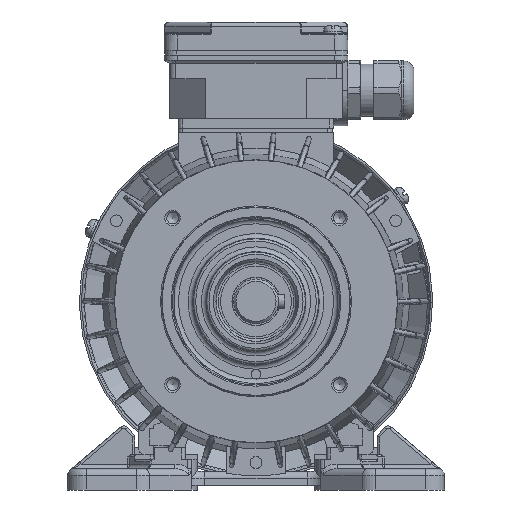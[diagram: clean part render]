
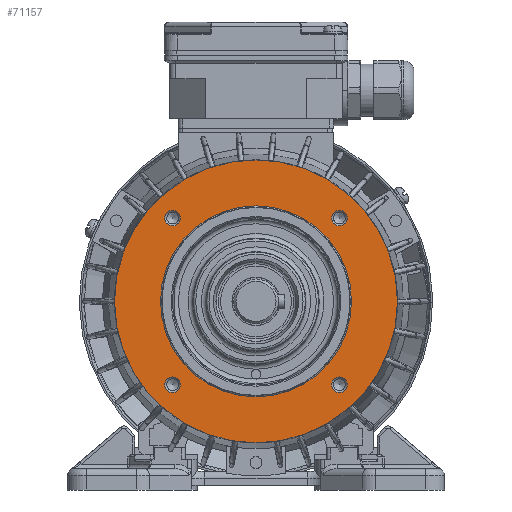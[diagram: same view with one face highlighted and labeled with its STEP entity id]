
A CAD part, left-side view. The second image highlights one B-rep face of the part: STEP entity #71157.
In plain terms, the highlighted planar face has unit normal (-1, 0, 0).
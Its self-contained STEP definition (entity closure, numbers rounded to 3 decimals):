
#20374=ORIENTED_EDGE('',*,*,#31230,.T.);
#20375=ORIENTED_EDGE('',*,*,#31231,.T.);
#20376=ORIENTED_EDGE('',*,*,#31232,.T.);
#20377=ORIENTED_EDGE('',*,*,#31233,.T.);
#20378=ORIENTED_EDGE('',*,*,#31234,.T.);
#20379=ORIENTED_EDGE('',*,*,#31043,.T.);
#31043=EDGE_CURVE('',#37262,#37262,#40697,.T.);
#31230=EDGE_CURVE('',#37378,#37378,#40741,.F.);
#31231=EDGE_CURVE('',#37379,#37379,#40742,.F.);
#31232=EDGE_CURVE('',#37380,#37380,#40743,.F.);
#31233=EDGE_CURVE('',#37381,#37381,#40744,.F.);
#31234=EDGE_CURVE('',#37382,#37382,#40745,.F.);
#37262=VERTEX_POINT('',#110181);
#37378=VERTEX_POINT('',#112184);
#37379=VERTEX_POINT('',#112186);
#37380=VERTEX_POINT('',#112188);
#37381=VERTEX_POINT('',#112190);
#37382=VERTEX_POINT('',#112192);
#40697=CIRCLE('',#75186,60.);
#40741=CIRCLE('',#75300,3.3);
#40742=CIRCLE('',#75301,3.3);
#40743=CIRCLE('',#75302,3.3);
#40744=CIRCLE('',#75303,3.3);
#40745=CIRCLE('',#75304,40.5);
#43477=EDGE_LOOP('',(#20374));
#43478=EDGE_LOOP('',(#20375));
#43479=EDGE_LOOP('',(#20376));
#43480=EDGE_LOOP('',(#20377));
#43481=EDGE_LOOP('',(#20378));
#43482=EDGE_LOOP('',(#20379));
#46836=FACE_BOUND('',#43477,.T.);
#46837=FACE_BOUND('',#43478,.T.);
#46838=FACE_BOUND('',#43479,.T.);
#46839=FACE_BOUND('',#43480,.T.);
#46840=FACE_BOUND('',#43481,.T.);
#46841=FACE_BOUND('',#43482,.T.);
#49039=PLANE('',#75299);
#71157=ADVANCED_FACE('',(#46836,#46837,#46838,#46839,#46840,#46841),#49039,
 .T.);
#75186=AXIS2_PLACEMENT_3D('',#110180,#85320,#85321);
#75299=AXIS2_PLACEMENT_3D('',#112182,#85588,#85589);
#75300=AXIS2_PLACEMENT_3D('',#112183,#85590,#85591);
#75301=AXIS2_PLACEMENT_3D('',#112185,#85592,#85593);
#75302=AXIS2_PLACEMENT_3D('',#112187,#85594,#85595);
#75303=AXIS2_PLACEMENT_3D('',#112189,#85596,#85597);
#75304=AXIS2_PLACEMENT_3D('',#112191,#85598,#85599);
#85320=DIRECTION('',(-1.,0.,0.));
#85321=DIRECTION('',(0.,0.,-1.));
#85588=DIRECTION('',(-1.,0.,0.));
#85589=DIRECTION('',(0.,0.,-1.));
#85590=DIRECTION('',(-1.,0.,0.));
#85591=DIRECTION('',(0.,0.,-1.));
#85592=DIRECTION('',(-1.,0.,0.));
#85593=DIRECTION('',(0.,0.,-1.));
#85594=DIRECTION('',(-1.,0.,0.));
#85595=DIRECTION('',(0.,0.,-1.));
#85596=DIRECTION('',(-1.,0.,0.));
#85597=DIRECTION('',(0.,0.,-1.));
#85598=DIRECTION('',(-1.,0.,0.));
#85599=DIRECTION('',(0.,0.,-1.));
#110180=CARTESIAN_POINT('',(-44.8,0.,0.));
#110181=CARTESIAN_POINT('',(-44.8,0.,-60.));
#112182=CARTESIAN_POINT('',(-44.8,0.,40.));
#112183=CARTESIAN_POINT('',(-44.8,35.355,-35.355));
#112184=CARTESIAN_POINT('',(-44.8,35.355,-38.655));
#112185=CARTESIAN_POINT('',(-44.8,-35.355,-35.355));
#112186=CARTESIAN_POINT('',(-44.8,-35.355,-38.655));
#112187=CARTESIAN_POINT('',(-44.8,-35.355,35.355));
#112188=CARTESIAN_POINT('',(-44.8,-35.355,32.055));
#112189=CARTESIAN_POINT('',(-44.8,35.355,35.355));
#112190=CARTESIAN_POINT('',(-44.8,35.355,32.055));
#112191=CARTESIAN_POINT('',(-44.8,0.,0.));
#112192=CARTESIAN_POINT('',(-44.8,0.,-40.5));
